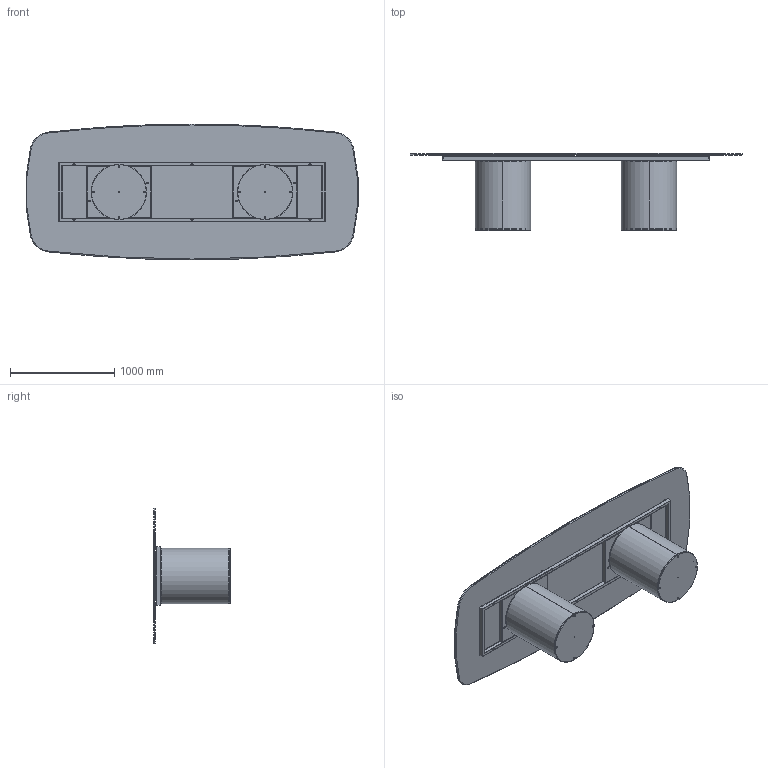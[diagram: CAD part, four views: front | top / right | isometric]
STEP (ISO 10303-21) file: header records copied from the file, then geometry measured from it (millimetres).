
FILE_DESCRIPTION (( 'STEP AP203' ), '1' );
FILE_NAME ('CI44K_Cilindro_300x120_King.STEP', '2024-07-31T13:16:04', ( '' ), ( '' ), 'SwSTEP 2.0', 'SolidWorks 2022', '' );
FILE_SCHEMA (( 'CONFIG_CONTROL_DESIGN' ));
Length unit declared in the file: millimetre
Products named in the file (11): K4XCMXX-00-Piani Sagomati in ceramica_3190 x 1300; TTAV03_02-06-VASSOIO IRRIGIDIMENTO TELAIO UNIVERSALE RETTANGOLARE; C2B000000-03-CILINDRO BASE D.530mm_Normale; CI44K_Cilindro_300x120_King; 434070-00-PIEDINO TPV GOMMA NERO D. 30x8max18_filo estetico; C2B000000_01-00-struttura cilindro D.530mm; TTAV03_01-06-RING TUBO TELAIO UNIVERSALE X TAVOLI 300-340cm; M8xXXmm_hex_M8X20mm; TTAV03-06-TELAIO UNIVERSALE X TAVOLI 300-340cm; C2B000000_02-01-ZAVORRA IN FERRO D.530mm; COLLO TELAIO UNIVERSALE TTAV03 CON FERRAMENTA_MTG TOP CRISTALLO VERNICIATO-CERAMICA
Assembly tree (22 placements, depth 4):
  CI44K_Cilindro_300x120_King
    C2B000000-03-CILINDRO BASE D.530mm_Normale  x2
      C2B000000_01-00-struttura cilindro D.530mm
      C2B000000_02-01-ZAVORRA IN FERRO D.530mm
      M8xXXmm_hex_M8X20mm
    COLLO TELAIO UNIVERSALE TTAV03 CON FERRAMENTA_MTG TOP CRISTALLO VERNICIATO-CERAMICA
      TTAV03-06-TELAIO UNIVERSALE X TAVOLI 300-340cm
        TTAV03_01-06-RING TUBO TELAIO UNIVERSALE X TAVOLI 300-340cm
        TTAV03_02-06-VASSOIO IRRIGIDIMENTO TELAIO UNIVERSALE RETTANGOLARE  x2
      434070-00-PIEDINO TPV GOMMA NERO D. 30x8max18_filo estetico  x8
    K4XCMXX-00-Piani Sagomati in ceramica_3190 x 1300
Bounding box: 3179.54 x 736 x 1300 mm (x, y, z)
Volume: 76111577.1 mm3; surface area: 24592018.3 mm2
Topology: 39 solids, 39 shells, 995 faces, 2253 edges, 1314 vertices
Faces by surface type: plane 444, cylinder 362, cone 105, torus 48, sphere 36
Entity records: 14172 total; most frequent: DIRECTION 2369, CARTESIAN_POINT 2141, ORIENTED_EDGE 2062, EDGE_CURVE 1031, AXIS2_PLACEMENT_3D 887, VERTEX_POINT 627, LINE 595, VECTOR 595
